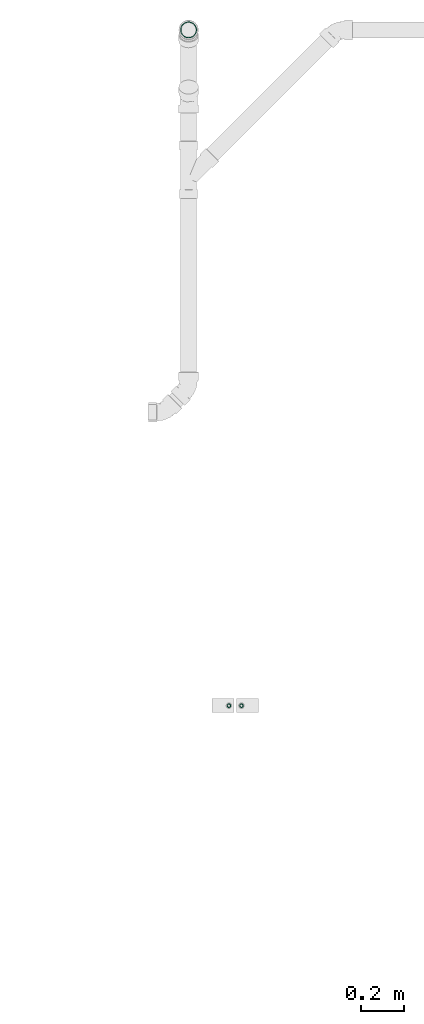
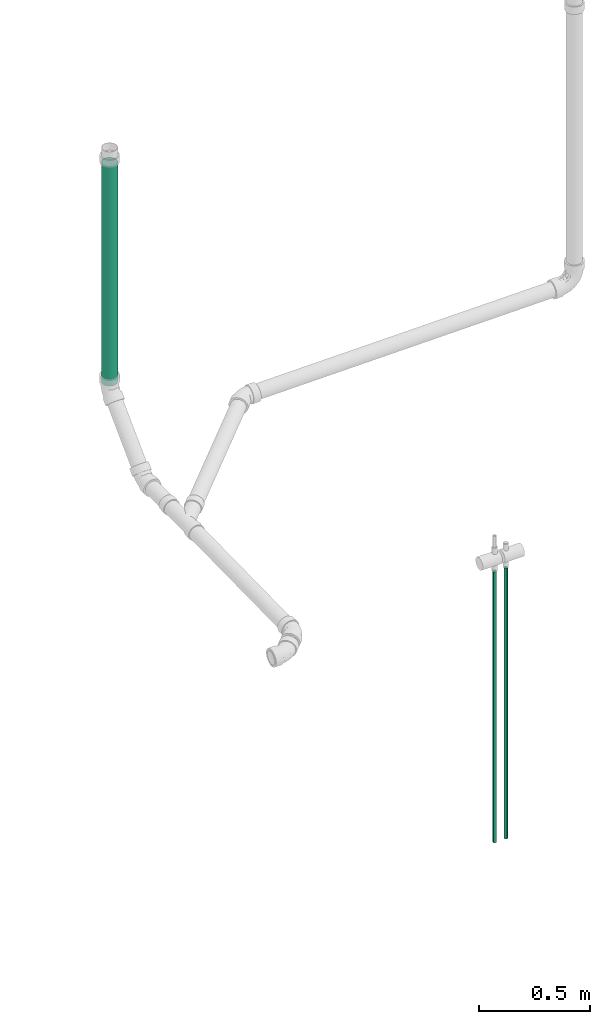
# One storey, part 4 of 18: 3 flow segments.
"""IFC2X3 building model written with IfcOpenShell, lengths in millimetres."""

import ifcopenshell
import ifcopenshell.guid

model = None  # the IFC model being written
_history = None  # IfcOwnerHistory: only IFC2X3 demands one
_inside = {}  # id of a spatial element -> (the spatial element, [elements in it])
_under = {}  # id of a project, library or spatial element -> (it, [spatial elements below it])
_declared = {}  # id of a project -> (the project, [libraries it declares])
_typed = {}  # id of a type object -> (the type object, [elements of that type])
_made_of = {}  # id of a material, layer set ... -> (it, [elements and type objects made of it])


def new_model(schema):
    """Start an empty IFC model of exactly this schema.

    Asked for "IFC4X3", IfcOpenShell would pick the latest addendum, in which some entities
    have other attributes; the version numbers below select the first issue.
    IFC2X3 requires an IfcOwnerHistory on every rooted entity: one is made here for all.
    """
    global model, _history
    if schema == "IFC4X3":
        model = ifcopenshell.file(schema_version=(4, 3, 0, 0))
    else:
        model = ifcopenshell.file(schema=schema)
    _inside.clear()
    _under.clear()
    _declared.clear()
    _typed.clear()
    _made_of.clear()
    _history = None
    if model.schema == "IFC2X3":
        org = make("IfcOrganization", Name="unknown")
        user = make(
            "IfcPersonAndOrganization",
            ThePerson=make("IfcPerson", FamilyName="unknown"),
            TheOrganization=org,
        )
        app = make(
            "IfcApplication",
            ApplicationDeveloper=org,
            Version="unknown",
            ApplicationFullName="unknown",
            ApplicationIdentifier="unknown",
        )
        _history = make(
            "IfcOwnerHistory",
            OwningUser=user,
            OwningApplication=app,
            ChangeAction="ADDED",
            CreationDate=0,
        )
    return model


def make(cls, **values):
    """One entity of the class cls with the attributes given. An attribute that is None is left unset."""
    return model.create_entity(
        cls, **{name: value for name, value in values.items() if value is not None}
    )


def entity(cls, *values):
    """Any entity or typed value of the class cls, its attributes in the order of the schema. None: left unset."""
    e = model.create_entity(cls)
    for i, value in enumerate(values):
        if value is not None:
            e[i] = value
    return e


def rooted(cls, **values):
    """An entity with a GlobalId (a new one), such as an element, a storey or a relation."""
    return make(cls, GlobalId=ifcopenshell.guid.new(), OwnerHistory=_history, **values)


def si_unit(unit_type, name, prefix=None):
    """IfcSIUnit, for example si_unit("LENGTHUNIT", "METRE", prefix="MILLI")."""
    return make("IfcSIUnit", UnitType=unit_type, Prefix=prefix, Name=name)


def converted_unit(unit_type, name, factor, base, dimensions=None, offset=None):
    """IfcConversionBasedUnit, such as the inch: factor (a typed value) times the base unit."""
    return make(
        "IfcConversionBasedUnit"
        if offset is None
        else "IfcConversionBasedUnitWithOffset",
        ConversionOffset=offset,
        Dimensions=None
        if dimensions is None
        else entity("IfcDimensionalExponents", *dimensions),
        UnitType=unit_type,
        Name=name,
        ConversionFactor=make(
            "IfcMeasureWithUnit", ValueComponent=factor, UnitComponent=base
        ),
    )


def derived_unit(unit_type, elements):
    """IfcDerivedUnit: a product of units, each with its exponent."""
    return make(
        "IfcDerivedUnit",
        Elements=[
            make("IfcDerivedUnitElement", Unit=unit, Exponent=power)
            for unit, power in elements
        ],
        UnitType=unit_type,
    )


def assignment(units):
    """IfcUnitAssignment: the units of a project."""
    return None if units is None else make("IfcUnitAssignment", Units=units)


def point(xyz):
    """IfcCartesianPoint."""
    return None if xyz is None else make("IfcCartesianPoint", Coordinates=xyz)


def direction(xyz):
    """IfcDirection."""
    return None if xyz is None else make("IfcDirection", DirectionRatios=xyz)


def frame(location, z_axis=None, x_axis=None):
    """IfcAxis2Placement3D, a coordinate frame: its origin and axes. An axis left out is left unset."""
    return make(
        "IfcAxis2Placement3D",
        Location=point(location),
        Axis=direction(z_axis),
        RefDirection=direction(x_axis),
    )


def frame_2d(location, x_axis=None):
    """IfcAxis2Placement2D, a coordinate frame in the plane: its origin and x axis."""
    return make(
        "IfcAxis2Placement2D", Location=point(location), RefDirection=direction(x_axis)
    )


def origin_with_axes():
    """The frame at (0, 0, 0) with the z axis (0, 0, 1) and the x axis (1, 0, 0) written out."""
    return frame((0.0, 0.0, 0.0), z_axis=(0.0, 0.0, 1.0), x_axis=(1.0, 0.0, 0.0))


def origin_2d_with_axis():
    """The frame at (0, 0) in the plane with the x axis (1, 0) written out."""
    return frame_2d((0.0, 0.0), x_axis=(1.0, 0.0))


def place(relative_to, where):
    """IfcLocalPlacement: puts the frame where relative to a parent placement (None: the world)."""
    return make(
        "IfcLocalPlacement", PlacementRelTo=relative_to, RelativePlacement=where
    )


def context(
    kind, dimensions, precision=None, world=None, true_north=None, identifier=None
):
    """IfcGeometricRepresentationContext, for example the 3D "Model" context."""
    return make(
        "IfcGeometricRepresentationContext",
        ContextIdentifier=identifier,
        ContextType=kind,
        CoordinateSpaceDimension=dimensions,
        Precision=precision,
        WorldCoordinateSystem=world,
        TrueNorth=true_north,
    )


def subcontext(parent, identifier, kind, view, scale=None):
    """IfcGeometricRepresentationSubContext, for example "Body" below "Model"."""
    return make(
        "IfcGeometricRepresentationSubContext",
        ContextIdentifier=identifier,
        ContextType=kind,
        ParentContext=parent,
        TargetScale=scale,
        TargetView=view,
    )


def project(units=None, contexts=None):
    """IfcProject with its units and contexts."""
    return rooted(
        "IfcProject",
        Name="project",
        RepresentationContexts=contexts,
        UnitsInContext=assignment(units),
    )


def spatial(cls, under=None, at=None, **own):
    """A site, building, storey or space (cls), placed at a placement, below another one or the project."""
    s = rooted(cls, ObjectPlacement=at, **own)
    if under is not None:
        _under.setdefault(under.id(), (under, []))[1].append(s)
    return s


def profile(cls, at=None, kind="AREA", **sizes):
    """A parametric profile (cls). Its sizes go by their IFC names, for example OverallWidth=200.0."""
    return make(cls, ProfileType=kind, Position=at, **sizes)


def hollow_circle(**sizes):
    """IfcCircleHollowProfileDef."""
    return profile("IfcCircleHollowProfileDef", **sizes)


def extrude(swept, where, along, depth):
    """IfcExtrudedAreaSolid: the profile swept, set in the frame where, extruded along a direction by depth."""
    return make(
        "IfcExtrudedAreaSolid",
        SweptArea=swept,
        Position=where,
        ExtrudedDirection=direction(along),
        Depth=depth,
    )


def shape(context_of_items, identifier, shape_type, items):
    """IfcShapeRepresentation: the items that make up one representation, for example the "Body"."""
    return make(
        "IfcShapeRepresentation",
        ContextOfItems=context_of_items,
        RepresentationIdentifier=identifier,
        RepresentationType=shape_type,
        Items=items,
    )


def source(mapping_origin, context_of_items, identifier, shape_type, items):
    """IfcRepresentationMap: a shape defined once, which mapped items show again and again."""
    return make(
        "IfcRepresentationMap",
        MappingOrigin=mapping_origin,
        MappedRepresentation=shape(context_of_items, identifier, shape_type, items),
    )


def transform(
    local_origin,
    x_axis=None,
    y_axis=None,
    z_axis=None,
    scale=None,
    scale2=None,
    scale3=None,
    uniform=True,
):
    """IfcCartesianTransformationOperator3D, or its non-uniform kind. x_axis, y_axis, z_axis: its Axis1, 2, 3."""
    if uniform:
        return make(
            "IfcCartesianTransformationOperator3D",
            Axis1=direction(x_axis),
            Axis2=direction(y_axis),
            LocalOrigin=point(local_origin),
            Scale=scale,
            Axis3=direction(z_axis),
        )
    return make(
        "IfcCartesianTransformationOperator3DnonUniform",
        Axis1=direction(x_axis),
        Axis2=direction(y_axis),
        LocalOrigin=point(local_origin),
        Scale=scale,
        Axis3=direction(z_axis),
        Scale2=scale2,
        Scale3=scale3,
    )


def mapped(mapping_source, mapping_target):
    """IfcMappedItem: shows the shape of a source again, moved by a transform."""
    return make(
        "IfcMappedItem", MappingSource=mapping_source, MappingTarget=mapping_target
    )


def made_of(thing, what):
    """Note that an element or type object is made of a material, layer set ...; save() writes the relation."""
    if what is not None:
        _made_of.setdefault(what.id(), (what, []))[1].append(thing)
    return thing


def type_object(cls, material=None, **own):
    """A type object (cls), such as IfcWallType, which elements share."""
    return made_of(rooted(cls, **own), material)


def element(
    cls,
    number,
    at=None,
    inside=None,
    cuts=None,
    type_object=None,
    material=None,
    context=None,
    identifier="Body",
    shape_type=None,
    held_by="IfcProductDefinitionShape",
    body=None,
    shapes=None,
    **own,
):
    """One element of the class cls, such as IfcWall. Its Tag is "e" and its number.

    at: its placement. inside: the storey or other place that contains it. cuts: it is an
    opening in that element (IfcRelVoidsElement). A single representation is given by context,
    identifier, shape_type and body (its items); several are given by shapes. held_by: the class
    of the entity that holds the representations. save() writes the other relations.
    """
    e = rooted(cls, Tag="e%d" % number, ObjectPlacement=at, **own)
    if body is not None:
        shapes = [shape(context, identifier, shape_type, body)]
    if shapes is not None:
        e.Representation = make(held_by, Representations=shapes)
    if inside is not None:
        _inside.setdefault(inside.id(), (inside, []))[1].append(e)
    if cuts is not None:
        rooted(
            "IfcRelVoidsElement", RelatingBuildingElement=cuts, RelatedOpeningElement=e
        )
    if type_object is not None:
        _typed.setdefault(type_object.id(), (type_object, []))[1].append(e)
    return made_of(e, material)


def aggregate(whole, parts):
    """IfcRelAggregates: a whole, such as a stair, and the parts it consists of."""
    return rooted("IfcRelAggregates", RelatingObject=whole, RelatedObjects=parts)


def save(model, path):
    """Write the relations noted so far, then the file.

    IfcRelAggregates (storeys below a building ...), IfcRelContainedInSpatialStructure (elements
    in a storey), IfcRelDefinesByType, IfcRelAssociatesMaterial and IfcRelDeclares: one each for
    every whole, place, type object, material and project.
    """
    for whole, parts in _under.values():
        aggregate(whole, parts)
    for where, things in _inside.values():
        rooted(
            "IfcRelContainedInSpatialStructure",
            RelatedElements=things,
            RelatingStructure=where,
        )
    for kind, things in _typed.values():
        rooted("IfcRelDefinesByType", RelatedObjects=things, RelatingType=kind)
    for what, things in _made_of.values():
        rooted("IfcRelAssociatesMaterial", RelatedObjects=things, RelatingMaterial=what)
    for by, libraries in _declared.values():
        rooted("IfcRelDeclares", RelatingContext=by, RelatedDefinitions=libraries)
    model.write(path)


model = new_model("IFC2X3")

# Units and contexts
model_context = context("Model", 3, precision=0.01, world=frame((0.0, 4.29681676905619e-09, 0.0)), true_north=direction((4.01073788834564e-13, 1.0)))
plan_context = context("Plan", 3, precision=0.01, world=frame((0.0, 4.29681676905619e-09, 0.0)), true_north=direction((4.01073788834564e-13, 1.0)))
body_context = subcontext(model_context, "Body", "Model", "MODEL_VIEW")
ifc_project = project(units=[converted_unit("PLANEANGLEUNIT", "DEGREE", entity("IfcPositiveLengthMeasure", 0.0174532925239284), si_unit("PLANEANGLEUNIT", "RADIAN"), dimensions=[0, 0, 0, 0, 0, 0, 0]), si_unit("AREAUNIT", "SQUARE_METRE"), si_unit("LENGTHUNIT", "METRE", prefix="MILLI"), si_unit("MASSUNIT", "GRAM", prefix="KILO"), si_unit("POWERUNIT", "WATT"), si_unit("PRESSUREUNIT", "PASCAL", prefix="KILO"), si_unit("FORCEUNIT", "NEWTON", prefix="KILO"), si_unit("ELECTRICVOLTAGEUNIT", "VOLT"), si_unit("ELECTRICCURRENTUNIT", "AMPERE"), si_unit("THERMODYNAMICTEMPERATUREUNIT", "DEGREE_CELSIUS"), si_unit("TIMEUNIT", "SECOND"), si_unit("VOLUMEUNIT", "CUBIC_METRE"), derived_unit("LINEARVELOCITYUNIT", [(si_unit("LENGTHUNIT", "METRE"), 1), (si_unit("TIMEUNIT", "SECOND"), -1)]), derived_unit("VOLUMETRICFLOWRATEUNIT", [(si_unit("VOLUMEUNIT", "CUBIC_METRE"), 1), (si_unit("TIMEUNIT", "SECOND"), -1)]), derived_unit("THERMALTRANSMITTANCEUNIT", [(si_unit("POWERUNIT", "WATT"), 1), (si_unit("THERMODYNAMICTEMPERATUREUNIT", "KELVIN"), -1), (si_unit("AREAUNIT", "SQUARE_METRE"), -1)]), derived_unit("SOUNDPRESSUREUNIT", [(si_unit("PRESSUREUNIT", "PASCAL"), 1)])], contexts=[model_context, plan_context])

# Site, building, storey
site_placement = place(None, frame((0.0, -4.29681676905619e-09, 0.0), z_axis=(0.0, 0.0, 1.0), x_axis=(1.0, 0.0, 0.0)))
site = spatial("IfcSite", under=ifc_project, at=site_placement, Name="ENGM", CompositionType="ELEMENT")
building_placement = place(site_placement, frame((0.0, 4.29681676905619e-09, 0.0), z_axis=(0.0, 0.0, 1.0), x_axis=(1.0, 0.0, 0.0)))
building = spatial("IfcBuilding", under=site, at=building_placement, Name="TI", CompositionType="ELEMENT")
storey_placement = place(building_placement, frame((0.0, 0.0, 204000.0), z_axis=(0.0, 0.0, 1.0), x_axis=(1.0, 0.0, 0.0)))
storey = spatial("IfcBuildingStorey", under=building, at=storey_placement, Name="Nivå D", CompositionType="ELEMENT", Elevation=204000.0)

# Flow segments
pipe_segment_type_1 = type_object("IfcPipeSegmentType", Name="MA", PredefinedType="RIGIDSEGMENT")
shared_shape_1 = source(origin_with_axes(), body_context, "Body", "SweptSolid", [
    extrude(hollow_circle(Radius=37.5, WallThickness=2.0, at=origin_2d_with_axis()), frame((0.0, 0.0, 0.0), z_axis=(1.0, 0.0, 0.0), x_axis=(0.0, 1.0, 0.0)), (0.0, 0.0, 1.0), 1210.8),
])
flow_segment_placement = place(storey_placement, frame((590977.08829, 578148.82029, 7551.83746000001), z_axis=(-1.0, 0.0, 0.0), x_axis=(0.0, 0.0, -1.0)))
element("IfcFlowSegment", 1, at=flow_segment_placement, inside=storey, type_object=pipe_segment_type_1, Name="MA", context=body_context, shape_type="MappedRepresentation", body=[
    mapped(shared_shape_1, transform((0.0, 0.0, 0.0), scale=1.0)),
])
pipe_segment_type_2 = type_object("IfcPipeSegmentType", Name="Kobberrør", PredefinedType="RIGIDSEGMENT")
shared_shape_2 = source(origin_with_axes(), body_context, "Body", "SweptSolid", [
    extrude(hollow_circle(Radius=9.0, WallThickness=2.0, at=origin_2d_with_axis()), frame((0.0, 0.0, 0.0), z_axis=(1.0, 0.0, 0.0), x_axis=(0.0, 1.0, 0.0)), (0.0, 0.0, 1.0), 1494.9),
])
for number, where, z_axis, x_axis in (
    (2, (591223.82673, 574995.92031, 5648.36856999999), (-1.0, 0.0, 0.0), (0.0, 0.0, 1.0)),
    (3, (591165.27303, 574995.92031, 5648.36856999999), (1.0, 0.0, 0.0), (0.0, 0.0, 1.0)),
):
    element("IfcFlowSegment", number, at=place(storey_placement, frame(where, z_axis=z_axis, x_axis=x_axis)), inside=storey, type_object=pipe_segment_type_2, Name="Kobberrør", context=body_context, shape_type="MappedRepresentation", body=[
        mapped(shared_shape_2, transform((0.0, 0.0, 0.0), scale=1.0)),
    ])

save(model, "model.ifc")
